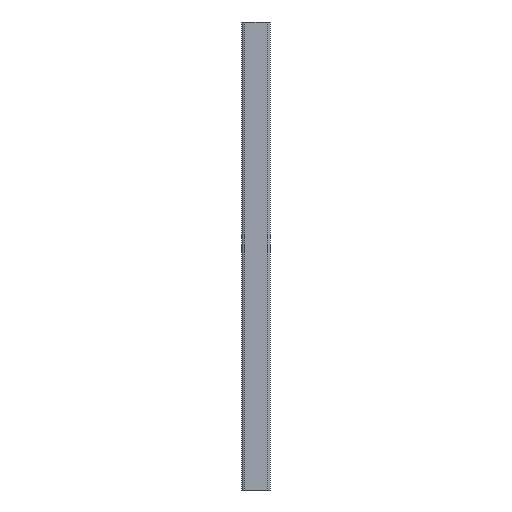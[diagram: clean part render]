
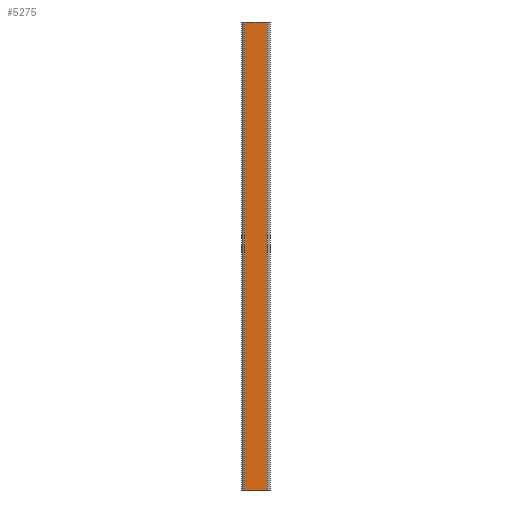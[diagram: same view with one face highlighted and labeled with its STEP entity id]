
A CAD part, front view. The second image highlights one B-rep face of the part: STEP entity #5275.
In plain terms, the highlighted planar face has unit normal (0, -1, 0).
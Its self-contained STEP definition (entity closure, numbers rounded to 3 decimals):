
#17 = CARTESIAN_POINT ( 'NONE',  ( 12., -15., -250. ) ) ;
#216 = VERTEX_POINT ( 'NONE', #1497 ) ;
#356 = PLANE ( 'NONE',  #1212 ) ;
#430 = ORIENTED_EDGE ( 'NONE', *, *, #705, .T. ) ;
#453 = CARTESIAN_POINT ( 'NONE',  ( -12., -15., -250. ) ) ;
#705 = EDGE_CURVE ( 'NONE', #216, #3883, #4983, .T. ) ;
#762 = EDGE_CURVE ( 'NONE', #804, #1779, #3432, .T. ) ;
#804 = VERTEX_POINT ( 'NONE', #1535 ) ;
#953 = EDGE_CURVE ( 'NONE', #1779, #3883, #2833, .T. ) ;
#1114 = ORIENTED_EDGE ( 'NONE', *, *, #762, .F. ) ;
#1212 = AXIS2_PLACEMENT_3D ( 'NONE', #4941, #2858, #2460 ) ;
#1245 = CARTESIAN_POINT ( 'NONE',  ( -15., -15., 250. ) ) ;
#1497 = CARTESIAN_POINT ( 'NONE',  ( 12., -15., -250. ) ) ;
#1535 = CARTESIAN_POINT ( 'NONE',  ( -12., -15., -250. ) ) ;
#1646 = ORIENTED_EDGE ( 'NONE', *, *, #953, .F. ) ;
#1779 = VERTEX_POINT ( 'NONE', #5051 ) ;
#2026 = FACE_OUTER_BOUND ( 'NONE', #2236, .T. ) ;
#2236 = EDGE_LOOP ( 'NONE', ( #2964, #430, #1646, #1114 ) ) ;
#2239 = VECTOR ( 'NONE', #4324, 1000. ) ;
#2460 = DIRECTION ( 'NONE',  ( 1., 0., 0. ) ) ;
#2752 = LINE ( 'NONE', #4717, #2239 ) ;
#2833 = LINE ( 'NONE', #1245, #4915 ) ;
#2858 = DIRECTION ( 'NONE',  ( 0., -1., 0. ) ) ;
#2860 = DIRECTION ( 'NONE',  ( 1., 0., 0. ) ) ;
#2901 = DIRECTION ( 'NONE',  ( 0., 0., 1. ) ) ;
#2964 = ORIENTED_EDGE ( 'NONE', *, *, #3180, .F. ) ;
#3180 = EDGE_CURVE ( 'NONE', #216, #804, #2752, .T. ) ;
#3432 = LINE ( 'NONE', #453, #4005 ) ;
#3776 = DIRECTION ( 'NONE',  ( 0., 0., 1. ) ) ;
#3779 = CARTESIAN_POINT ( 'NONE',  ( 12., -15., 250. ) ) ;
#3883 = VERTEX_POINT ( 'NONE', #3779 ) ;
#4005 = VECTOR ( 'NONE', #3776, 1000. ) ;
#4324 = DIRECTION ( 'NONE',  ( -1., 0., 0. ) ) ;
#4717 = CARTESIAN_POINT ( 'NONE',  ( -15., -15., -250. ) ) ;
#4915 = VECTOR ( 'NONE', #2860, 1000. ) ;
#4941 = CARTESIAN_POINT ( 'NONE',  ( -15., -15., -292.426 ) ) ;
#4983 = LINE ( 'NONE', #17, #5231 ) ;
#5051 = CARTESIAN_POINT ( 'NONE',  ( -12., -15., 250. ) ) ;
#5231 = VECTOR ( 'NONE', #2901, 1000. ) ;
#5275 = ADVANCED_FACE ( 'NONE', ( #2026 ), #356, .T. ) ;
